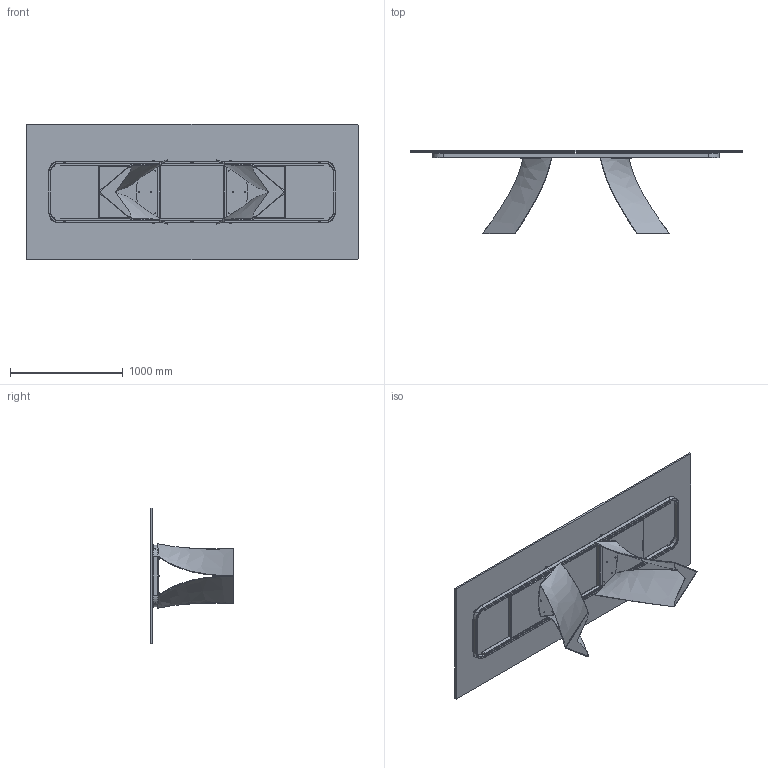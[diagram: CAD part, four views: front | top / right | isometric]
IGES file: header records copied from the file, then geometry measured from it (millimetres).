
Start section: SolidWorks IGES file using analytic representation for surfaces
Global section: file name: Y:\eforma\TECNICO\SOLIDWORKS\E-FORMA\1-TAVOLI\TWIST\02 parts\TW29G.IGS; native system: SolidWorks 2022; preprocessor: SolidWorks 2022; author: eforma.tech; date: 240807.143637; units: millimetre
Bounding box: 2950 x 740.37 x 1200 mm (x, y, z)
Volume: 66684143 mm3; surface area: 13280688 mm2
Topology: 67 solids, 67 shells, 1270 faces, 2950 edges, 1806 vertices
Faces by surface type: revolution 682, plane 522, bspline 66
